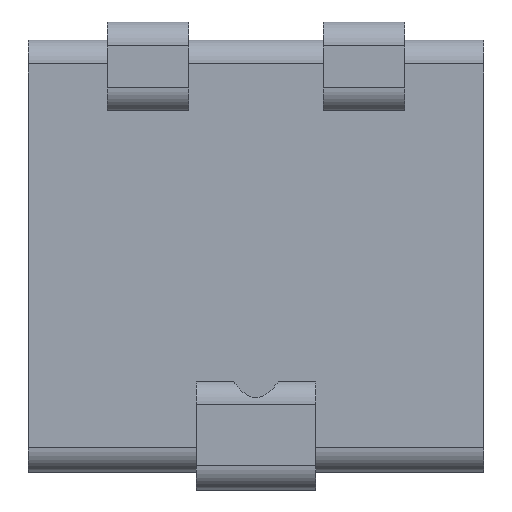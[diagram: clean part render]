
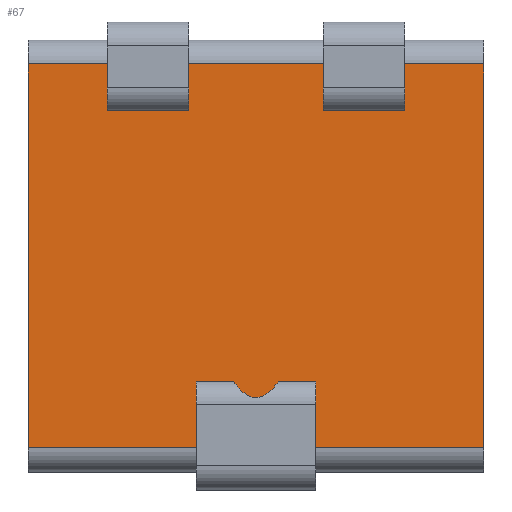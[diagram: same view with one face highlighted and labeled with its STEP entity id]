
A CAD part, top view. The second image highlights one B-rep face of the part: STEP entity #67.
In plain terms, the highlighted planar face has unit normal (0, 0, 1).
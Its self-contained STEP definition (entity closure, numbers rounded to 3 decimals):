
#67=ADVANCED_FACE('',(#163,#164,#165,#166,#167),#168,.T.);
#163=FACE_OUTER_BOUND('',#327,.T.);
#164=FACE_BOUND('',#328,.T.);
#165=FACE_BOUND('',#329,.T.);
#166=FACE_BOUND('',#330,.T.);
#167=FACE_BOUND('',#331,.T.);
#168=PLANE('',#332);
#327=EDGE_LOOP('',(#662,#663,#664,#665));
#328=EDGE_LOOP('',(#666,#667,#668,#669));
#329=EDGE_LOOP('',(#670,#671,#672,#673));
#330=EDGE_LOOP('',(#674,#675,#676,#677));
#331=EDGE_LOOP('',(#678,#679,#680,#681));
#332=AXIS2_PLACEMENT_3D('',#682,#683,#684);
#662=ORIENTED_EDGE('',*,*,#1170,.T.);
#663=ORIENTED_EDGE('',*,*,#1171,.T.);
#664=ORIENTED_EDGE('',*,*,#1172,.T.);
#665=ORIENTED_EDGE('',*,*,#1173,.T.);
#666=ORIENTED_EDGE('',*,*,#1174,.F.);
#667=ORIENTED_EDGE('',*,*,#1175,.T.);
#668=ORIENTED_EDGE('',*,*,#1176,.F.);
#669=ORIENTED_EDGE('',*,*,#1177,.T.);
#670=ORIENTED_EDGE('',*,*,#1178,.F.);
#671=ORIENTED_EDGE('',*,*,#1179,.T.);
#672=ORIENTED_EDGE('',*,*,#1169,.F.);
#673=ORIENTED_EDGE('',*,*,#1180,.T.);
#674=ORIENTED_EDGE('',*,*,#1181,.T.);
#675=ORIENTED_EDGE('',*,*,#1182,.T.);
#676=ORIENTED_EDGE('',*,*,#1183,.T.);
#677=ORIENTED_EDGE('',*,*,#1184,.T.);
#678=ORIENTED_EDGE('',*,*,#1185,.F.);
#679=ORIENTED_EDGE('',*,*,#1186,.T.);
#680=ORIENTED_EDGE('',*,*,#1187,.T.);
#681=ORIENTED_EDGE('',*,*,#1188,.T.);
#682=CARTESIAN_POINT('',(-0.305,0.0,0.0));
#683=DIRECTION('',(0.0,0.0,1.0));
#684=DIRECTION('',(1.0,0.0,0.0));
#1169=EDGE_CURVE('',#1468,#1466,#1470,.T.);
#1170=EDGE_CURVE('',#1471,#1472,#1473,.T.);
#1171=EDGE_CURVE('',#1472,#1474,#1475,.T.);
#1172=EDGE_CURVE('',#1474,#1476,#1477,.T.);
#1173=EDGE_CURVE('',#1476,#1471,#1478,.T.);
#1174=EDGE_CURVE('',#1479,#1480,#1481,.T.);
#1175=EDGE_CURVE('',#1479,#1482,#1483,.T.);
#1176=EDGE_CURVE('',#1484,#1482,#1485,.T.);
#1177=EDGE_CURVE('',#1484,#1480,#1486,.T.);
#1178=EDGE_CURVE('',#1487,#1488,#1489,.T.);
#1179=EDGE_CURVE('',#1487,#1466,#1490,.T.);
#1180=EDGE_CURVE('',#1468,#1488,#1491,.T.);
#1181=EDGE_CURVE('',#1492,#1493,#1494,.T.);
#1182=EDGE_CURVE('',#1493,#1495,#1496,.T.);
#1183=EDGE_CURVE('',#1495,#1497,#1498,.T.);
#1184=EDGE_CURVE('',#1497,#1492,#1499,.T.);
#1185=EDGE_CURVE('',#1500,#1501,#1502,.T.);
#1186=EDGE_CURVE('',#1500,#1503,#1504,.T.);
#1187=EDGE_CURVE('',#1503,#1505,#1506,.T.);
#1188=EDGE_CURVE('',#1505,#1501,#1507,.T.);
#1466=VERTEX_POINT('',#1816);
#1468=VERTEX_POINT('',#1818);
#1470=LINE('',#1820,#1821);
#1471=VERTEX_POINT('',#1822);
#1472=VERTEX_POINT('',#1823);
#1473=LINE('',#1824,#1825);
#1474=VERTEX_POINT('',#1826);
#1475=LINE('',#1827,#1828);
#1476=VERTEX_POINT('',#1829);
#1477=LINE('',#1830,#1831);
#1478=LINE('',#1832,#1833);
#1479=VERTEX_POINT('',#1834);
#1480=VERTEX_POINT('',#1835);
#1481=LINE('',#1836,#1837);
#1482=VERTEX_POINT('',#1838);
#1483=LINE('',#1839,#1840);
#1484=VERTEX_POINT('',#1841);
#1485=LINE('',#1842,#1843);
#1486=LINE('',#1844,#1845);
#1487=VERTEX_POINT('',#1846);
#1488=VERTEX_POINT('',#1847);
#1489=LINE('',#1848,#1849);
#1490=LINE('',#1850,#1851);
#1491=LINE('',#1852,#1853);
#1492=VERTEX_POINT('',#1854);
#1493=VERTEX_POINT('',#1855);
#1494=LINE('',#1856,#1857);
#1495=VERTEX_POINT('',#1858);
#1496=LINE('',#1859,#1860);
#1497=VERTEX_POINT('',#1861);
#1498=B_SPLINE_CURVE_WITH_KNOTS('',3,(#1862,#1863,#1864,#1865,#1866,#1867,#1868,#1869,#1870),.UNSPECIFIED.,.F.,.F.,(4,1,1,1,1,1,4),(0.0,0.167,0.333,0.5,0.667,0.833,1.0),.UNSPECIFIED.);
#1499=LINE('',#1871,#1872);
#1500=VERTEX_POINT('',#1873);
#1501=VERTEX_POINT('',#1874);
#1502=B_SPLINE_CURVE_WITH_KNOTS('',3,(#1875,#1876,#1877,#1878,#1879,#1880,#1881,#1882,#1883),.UNSPECIFIED.,.F.,.F.,(4,1,1,1,1,1,4),(0.0,0.167,0.333,0.5,0.667,0.833,1.0),.UNSPECIFIED.);
#1503=VERTEX_POINT('',#1884);
#1504=LINE('',#1885,#1886);
#1505=VERTEX_POINT('',#1887);
#1506=LINE('',#1888,#1889);
#1507=LINE('',#1890,#1891);
#1816=CARTESIAN_POINT('',(1.27,1.676,0.0));
#1818=CARTESIAN_POINT('',(1.27,1.536,0.0));
#1820=CARTESIAN_POINT('',(1.27,1.536,0.0));
#1821=VECTOR('',#2295,0.141);
#1822=CARTESIAN_POINT('',(-2.718,2.032,0.0));
#1823=CARTESIAN_POINT('',(-2.718,-2.032,0.0));
#1824=CARTESIAN_POINT('',(-2.718,2.032,0.0));
#1825=VECTOR('',#2296,4.064);
#1826=CARTESIAN_POINT('',(2.108,-2.032,0.0));
#1827=CARTESIAN_POINT('',(-2.718,-2.032,0.0));
#1828=VECTOR('',#2297,4.826);
#1829=CARTESIAN_POINT('',(2.108,2.032,0.0));
#1830=CARTESIAN_POINT('',(2.108,-2.032,0.0));
#1831=VECTOR('',#2298,4.064);
#1832=CARTESIAN_POINT('',(2.108,2.032,0.0));
#1833=VECTOR('',#2299,4.826);
#1834=CARTESIAN_POINT('',(-1.88,1.676,0.0));
#1835=CARTESIAN_POINT('',(-1.88,1.536,0.0));
#1836=CARTESIAN_POINT('',(-1.88,1.676,0.0));
#1837=VECTOR('',#2300,0.141);
#1838=CARTESIAN_POINT('',(-1.016,1.676,0.0));
#1839=CARTESIAN_POINT('',(-1.88,1.676,0.0));
#1840=VECTOR('',#2301,0.864);
#1841=CARTESIAN_POINT('',(-1.016,1.536,0.0));
#1842=CARTESIAN_POINT('',(-1.016,1.536,0.0));
#1843=VECTOR('',#2302,0.141);
#1844=CARTESIAN_POINT('',(-1.016,1.536,0.0));
#1845=VECTOR('',#2303,0.864);
#1846=CARTESIAN_POINT('',(0.406,1.676,0.0));
#1847=CARTESIAN_POINT('',(0.406,1.536,0.0));
#1848=CARTESIAN_POINT('',(0.406,1.676,0.0));
#1849=VECTOR('',#2304,0.141);
#1850=CARTESIAN_POINT('',(0.406,1.676,0.0));
#1851=VECTOR('',#2305,0.864);
#1852=CARTESIAN_POINT('',(1.27,1.536,0.0));
#1853=VECTOR('',#2306,0.864);
#1854=CARTESIAN_POINT('',(0.33,-1.332,0.0));
#1855=CARTESIAN_POINT('',(0.33,-1.473,0.0));
#1856=CARTESIAN_POINT('',(0.33,-1.332,0.0));
#1857=VECTOR('',#2307,0.141);
#1858=CARTESIAN_POINT('',(-0.1,-1.473,0.0));
#1859=CARTESIAN_POINT('',(0.33,-1.473,0.0));
#1860=VECTOR('',#2308,0.43);
#1861=CARTESIAN_POINT('',(-0.068,-1.332,0.0));
#1862=CARTESIAN_POINT('',(-0.1,-1.473,0.0));
#1863=CARTESIAN_POINT('',(-0.097,-1.468,0.0));
#1864=CARTESIAN_POINT('',(-0.091,-1.457,0.0));
#1865=CARTESIAN_POINT('',(-0.085,-1.438,0.0));
#1866=CARTESIAN_POINT('',(-0.079,-1.417,0.0));
#1867=CARTESIAN_POINT('',(-0.075,-1.393,0.0));
#1868=CARTESIAN_POINT('',(-0.071,-1.365,0.0));
#1869=CARTESIAN_POINT('',(-0.069,-1.344,0.0));
#1870=CARTESIAN_POINT('',(-0.068,-1.332,0.0));
#1871=CARTESIAN_POINT('',(-0.068,-1.332,0.0));
#1872=VECTOR('',#2309,0.399);
#1873=CARTESIAN_POINT('',(-0.51,-1.473,0.0));
#1874=CARTESIAN_POINT('',(-0.541,-1.332,0.0));
#1875=CARTESIAN_POINT('',(-0.51,-1.473,0.0));
#1876=CARTESIAN_POINT('',(-0.513,-1.468,0.0));
#1877=CARTESIAN_POINT('',(-0.519,-1.457,0.0));
#1878=CARTESIAN_POINT('',(-0.525,-1.437,0.0));
#1879=CARTESIAN_POINT('',(-0.531,-1.416,0.0));
#1880=CARTESIAN_POINT('',(-0.535,-1.392,0.0));
#1881=CARTESIAN_POINT('',(-0.538,-1.364,0.0));
#1882=CARTESIAN_POINT('',(-0.54,-1.344,0.0));
#1883=CARTESIAN_POINT('',(-0.541,-1.332,0.0));
#1884=CARTESIAN_POINT('',(-0.94,-1.473,0.0));
#1885=CARTESIAN_POINT('',(-0.51,-1.473,0.0));
#1886=VECTOR('',#2310,0.43);
#1887=CARTESIAN_POINT('',(-0.94,-1.332,0.0));
#1888=CARTESIAN_POINT('',(-0.94,-1.473,0.0));
#1889=VECTOR('',#2311,0.141);
#1890=CARTESIAN_POINT('',(-0.94,-1.332,0.0));
#1891=VECTOR('',#2312,0.399);
#2295=DIRECTION('',(0.0,1.0,0.));
#2296=DIRECTION('',(0.0,-1.0,0.0));
#2297=DIRECTION('',(1.0,0.0,0.0));
#2298=DIRECTION('',(0.0,1.0,0.0));
#2299=DIRECTION('',(-1.0,0.0,0.0));
#2300=DIRECTION('',(0.0,-1.0,0.));
#2301=DIRECTION('',(1.0,0.0,0.0));
#2302=DIRECTION('',(0.0,1.0,0.));
#2303=DIRECTION('',(-1.0,0.0,0.0));
#2304=DIRECTION('',(0.0,-1.0,0.));
#2305=DIRECTION('',(1.0,0.0,0.0));
#2306=DIRECTION('',(-1.0,0.0,0.0));
#2307=DIRECTION('',(0.0,-1.0,0.));
#2308=DIRECTION('',(-1.0,0.,0.));
#2309=DIRECTION('',(1.0,0.,0.0));
#2310=DIRECTION('',(-1.0,0.,0.));
#2311=DIRECTION('',(0.0,1.0,0.));
#2312=DIRECTION('',(1.0,0.,0.));
